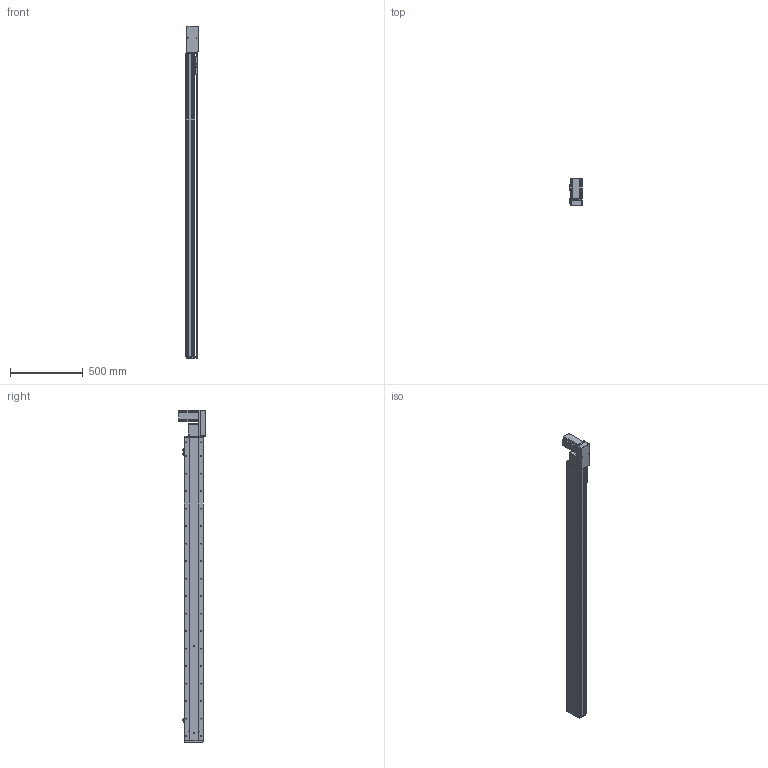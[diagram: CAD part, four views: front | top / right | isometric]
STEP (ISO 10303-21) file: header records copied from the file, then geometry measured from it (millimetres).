
FILE_DESCRIPTION (( 'STEP AP214' ), '1' );
FILE_NAME ('KSD130B-S1850-MLB-CM.STEP', '2019-11-14T05:09:18', ( '微软用户' ), ( '微软中国' ), 'SwSTEP 2.0', 'SolidWorks 2014', '' );
FILE_SCHEMA (( 'AUTOMOTIVE_DESIGN' ));
Length unit declared in the file: millimetre
Products named in the file (12): 130宽马达安装板同步带半封闭; 130宽同步带安装座半封闭; 130宽端盖同步带半封闭; 130宽底板半封闭同步带-1850行程; KSD130B-S1850-MLB-CM; 台达ECMA－C20807AS伺服电机; 130宽模组保护罩上下左右折-同步带; 130宽模组马达安装板连板左右折同步带; 覜茼え100遵圉猾敕; U倰嫖萇EEㄜSX672; 130宽盖板半封闭同步带-1850行程; 130宽马达安装板同步带左-改
Assembly tree (13 placements, depth 2):
  KSD130B-S1850-MLB-CM
    130宽底板半封闭同步带-1850行程
    130宽端盖同步带半封闭
    130宽同步带安装座半封闭
    130宽马达安装板同步带半封闭
    130宽马达安装板同步带左-改
    130宽盖板半封闭同步带-1850行程
    U倰嫖萇EEㄜSX672  x3
    覜茼え100遵圉猾敕
    130宽模组马达安装板连板左右折同步带
    130宽模组保护罩上下左右折-同步带
    台达ECMA－C20807AS伺服电机
Bounding box: 82.5 x 184.8 x 2277 mm (x, y, z)
Volume: 7281125.9 mm3; surface area: 2065399.5 mm2
Topology: 14 solids, 14 shells, 1749 faces, 5101 edges, 3231 vertices
Faces by surface type: cylinder 864, plane 654, cone 231
Entity records: 59847 total; most frequent: CARTESIAN_POINT 11636, DIRECTION 9003, ORIENTED_EDGE 8726, EDGE_CURVE 4363, AXIS2_PLACEMENT_3D 3318, VERTEX_POINT 2855, VECTOR 2367, LINE 2367
